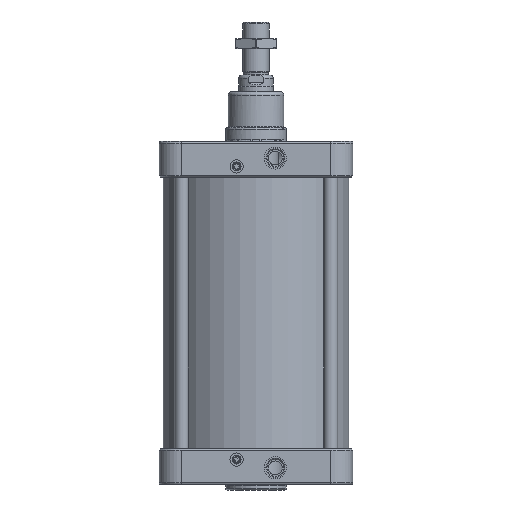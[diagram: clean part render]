
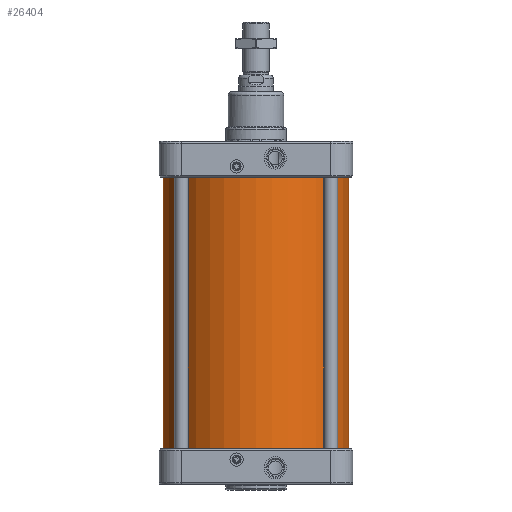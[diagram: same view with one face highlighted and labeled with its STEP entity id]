
A CAD part, front view. The second image highlights one B-rep face of the part: STEP entity #26404.
In plain terms, the highlighted cylindrical face has radius 168 mm (diameter 336 mm), a full revolution.
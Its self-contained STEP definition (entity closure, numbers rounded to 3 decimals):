
#2804=CIRCLE('',#29645,168.);
#2805=CIRCLE('',#29647,168.);
#3478=FACE_BOUND('',#7098,.T.);
#5147=FACE_OUTER_BOUND('',#7097,.T.);
#7097=EDGE_LOOP('',(#22547));
#7098=EDGE_LOOP('',(#22548));
#11979=VERTEX_POINT('',#64759);
#11980=VERTEX_POINT('',#64762);
#15511=EDGE_CURVE('',#11979,#11979,#2804,.T.);
#15512=EDGE_CURVE('',#11980,#11980,#2805,.T.);
#22547=ORIENTED_EDGE('',*,*,#15511,.T.);
#22548=ORIENTED_EDGE('',*,*,#15512,.T.);
#23070=CYLINDRICAL_SURFACE('',#29646,168.);
#26404=ADVANCED_FACE('',(#5147,#3478),#23070,.T.);
#29645=AXIS2_PLACEMENT_3D('',#64760,#36878,#36879);
#29646=AXIS2_PLACEMENT_3D('',#64761,#36880,#36881);
#29647=AXIS2_PLACEMENT_3D('',#64763,#36882,#36883);
#36878=DIRECTION('center_axis',(0.,0.,1.));
#36879=DIRECTION('ref_axis',(-1.,0.,0.));
#36880=DIRECTION('center_axis',(0.,0.,1.));
#36881=DIRECTION('ref_axis',(-1.,0.,0.));
#36882=DIRECTION('center_axis',(0.,0.,-1.));
#36883=DIRECTION('ref_axis',(-1.,0.,0.));
#64759=CARTESIAN_POINT('',(168.,0.,-245.));
#64760=CARTESIAN_POINT('Origin',(0.,0.,-245.));
#64761=CARTESIAN_POINT('Origin',(0.,0.,0.));
#64762=CARTESIAN_POINT('',(168.,0.,245.));
#64763=CARTESIAN_POINT('Origin',(0.,0.,245.));
